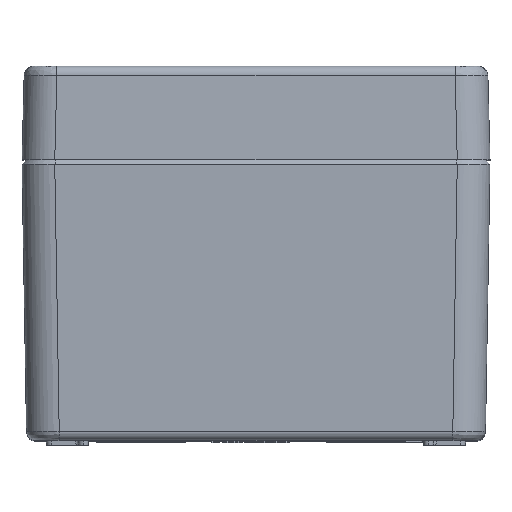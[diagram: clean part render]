
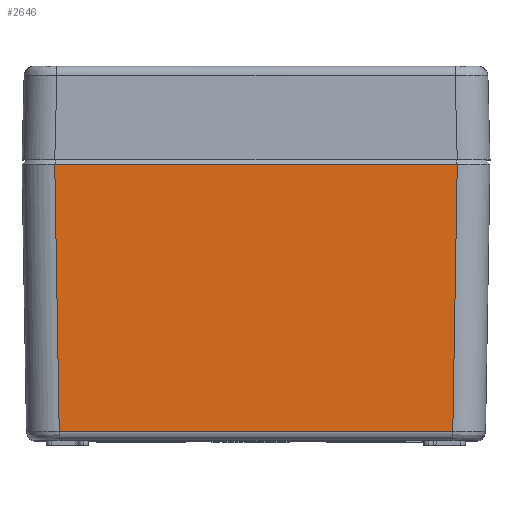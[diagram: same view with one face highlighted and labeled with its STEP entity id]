
A CAD part, top view. The second image highlights one B-rep face of the part: STEP entity #2646.
In plain terms, the highlighted planar face has unit normal (0, -0.017, 1).
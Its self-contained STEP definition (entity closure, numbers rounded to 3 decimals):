
#400 = PLANE ( 'NONE',  #3254 ) ;
#2554 = VERTEX_POINT ( 'NONE', #26069 ) ;
#2646 = ADVANCED_FACE ( 'NONE', ( #27183 ), #400, .T. ) ;
#3254 = AXIS2_PLACEMENT_3D ( 'NONE', #13487, #46348, #4368 ) ;
#4368 = DIRECTION ( 'NONE',  ( 0., -1., -0.017 ) ) ;
#6294 = VECTOR ( 'NONE', #31058, 1000. ) ;
#7985 = EDGE_CURVE ( 'NONE', #2554, #37978, #21217, .T. ) ;
#8692 = VERTEX_POINT ( 'NONE', #30640 ) ;
#10204 = ORIENTED_EDGE ( 'NONE', *, *, #7985, .T. ) ;
#11901 = B_SPLINE_CURVE_WITH_KNOTS ( 'NONE', 3,
 ( #14079, #46068, #13795, #45483 ),
 .UNSPECIFIED., .F., .F.,
 ( 4, 4 ),
 ( 0., 0. ),
 .UNSPECIFIED. ) ;
#12109 = EDGE_CURVE ( 'NONE', #28193, #2554, #23501, .T. ) ;
#12327 = DIRECTION ( 'NONE',  ( 0.017, 1., 0.017 ) ) ;
#13487 = CARTESIAN_POINT ( 'NONE',  ( -44.704, -1.18, 48.995 ) ) ;
#13795 = CARTESIAN_POINT ( 'NONE',  ( 42.94, 59.017, 49.999 ) ) ;
#14079 = CARTESIAN_POINT ( 'NONE',  ( 43., 59.017, 49.999 ) ) ;
#14754 = ORIENTED_EDGE ( 'NONE', *, *, #32766, .T. ) ;
#15517 = CARTESIAN_POINT ( 'NONE',  ( -42.92, 59.016, 49.999 ) ) ;
#17178 = CARTESIAN_POINT ( 'NONE',  ( 42.049, 1.967, 49.048 ) ) ;
#17676 = CARTESIAN_POINT ( 'NONE',  ( -43., 59.017, 49.999 ) ) ;
#17837 = LINE ( 'NONE', #22707, #59880 ) ;
#20205 = CARTESIAN_POINT ( 'NONE',  ( 42.049, 1.967, 49.048 ) ) ;
#21217 = LINE ( 'NONE', #54366, #37601 ) ;
#21298 = ORIENTED_EDGE ( 'NONE', *, *, #35743, .F. ) ;
#22227 = LINE ( 'NONE', #40792, #6294 ) ;
#22707 = CARTESIAN_POINT ( 'NONE',  ( -44.704, 59.016, 49.999 ) ) ;
#22754 = ORIENTED_EDGE ( 'NONE', *, *, #12109, .T. ) ;
#23501 = B_SPLINE_CURVE_WITH_KNOTS ( 'NONE', 3,
 ( #59650, #41998, #51122, #17676 ),
 .UNSPECIFIED., .F., .F.,
 ( 4, 4 ),
 ( 0., 0. ),
 .UNSPECIFIED. ) ;
#24575 = ORIENTED_EDGE ( 'NONE', *, *, #28418, .T. ) ;
#26069 = CARTESIAN_POINT ( 'NONE',  ( -43., 59.017, 49.999 ) ) ;
#26582 = VERTEX_POINT ( 'NONE', #39416 ) ;
#27183 = FACE_OUTER_BOUND ( 'NONE', #58891, .T. ) ;
#28193 = VERTEX_POINT ( 'NONE', #15517 ) ;
#28418 = EDGE_CURVE ( 'NONE', #26582, #28193, #17837, .T. ) ;
#30583 = EDGE_CURVE ( 'NONE', #8692, #26582, #11901, .T. ) ;
#30640 = CARTESIAN_POINT ( 'NONE',  ( 43., 59.017, 49.999 ) ) ;
#31058 = DIRECTION ( 'NONE',  ( -1., 0., 0. ) ) ;
#32766 = EDGE_CURVE ( 'NONE', #47494, #8692, #58276, .T. ) ;
#35743 = EDGE_CURVE ( 'NONE', #47494, #37978, #22227, .T. ) ;
#37601 = VECTOR ( 'NONE', #39779, 1000. ) ;
#37978 = VERTEX_POINT ( 'NONE', #46772 ) ;
#38649 = ORIENTED_EDGE ( 'NONE', *, *, #30583, .T. ) ;
#39416 = CARTESIAN_POINT ( 'NONE',  ( 42.91, 59.016, 49.999 ) ) ;
#39779 = DIRECTION ( 'NONE',  ( 0.017, -1., -0.017 ) ) ;
#40792 = CARTESIAN_POINT ( 'NONE',  ( -44.704, 1.967, 49.048 ) ) ;
#41609 = VECTOR ( 'NONE', #12327, 1000. ) ;
#41998 = CARTESIAN_POINT ( 'NONE',  ( -42.946, 59.017, 49.999 ) ) ;
#45483 = CARTESIAN_POINT ( 'NONE',  ( 42.91, 59.016, 49.999 ) ) ;
#46068 = CARTESIAN_POINT ( 'NONE',  ( 42.97, 59.017, 49.999 ) ) ;
#46348 = DIRECTION ( 'NONE',  ( 0., -0.017, 1. ) ) ;
#46772 = CARTESIAN_POINT ( 'NONE',  ( -42.049, 1.967, 49.048 ) ) ;
#47494 = VERTEX_POINT ( 'NONE', #20205 ) ;
#51122 = CARTESIAN_POINT ( 'NONE',  ( -42.973, 59.017, 49.999 ) ) ;
#54366 = CARTESIAN_POINT ( 'NONE',  ( -43., 59.017, 49.999 ) ) ;
#54385 = DIRECTION ( 'NONE',  ( -1., 0., 0. ) ) ;
#58276 = LINE ( 'NONE', #17178, #41609 ) ;
#58891 = EDGE_LOOP ( 'NONE', ( #24575, #22754, #10204, #21298, #14754, #38649 ) ) ;
#59650 = CARTESIAN_POINT ( 'NONE',  ( -42.92, 59.016, 49.999 ) ) ;
#59880 = VECTOR ( 'NONE', #54385, 1000. ) ;
